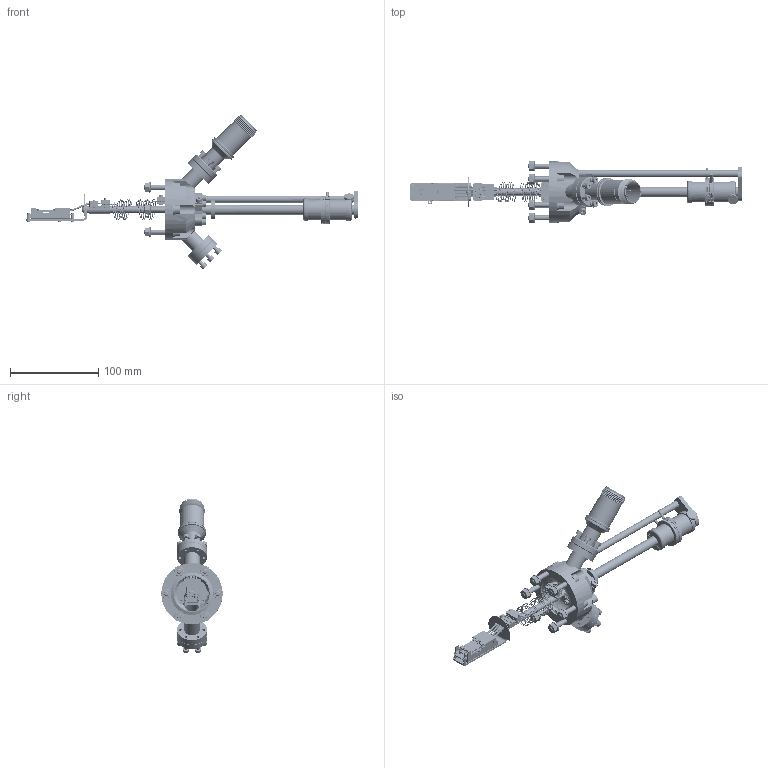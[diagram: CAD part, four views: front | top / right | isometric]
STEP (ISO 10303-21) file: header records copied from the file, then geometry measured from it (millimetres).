
FILE_DESCRIPTION(('Confidential','CAx-IF Rec.Pracs.--- Model Styling and Organization---1.2---2011-12-15','CAx-IF Rec.Pracs.--- Geometric and Assembly Validation Properties ---3.1---2011-10-19'),'2;1');
FILE_NAME('W:\KONSTRUKTION\PRODUCTS\HS\HSAS\HSASOM\HSASOM40\HSASOM40(PBNMD)\HSASOM40(PBNMD)_Rev_F.stp','2026-05-20T07:31:39+00:00',('none'),('Ferrovac AG'),'CATIA Version 5 Release 21 SP 6 (IN-10)','CATIA V5 STEP AP214 Edition 3','PROPERTY OF FERROVAC AG');
FILE_SCHEMA(('AUTOMOTIVE_DESIGN { 1 0 10303 214 3 1 1 1 }'));
Products named in the file (1): HSASOM40(PBNMD)
Bounding box: 376.8 x 70.7 x 175.65 mm (x, y, z)
Volume: 200387 mm3; surface area: 137395.4 mm2
Topology: 2 solids, 50 shells, 6773 faces, 18421 edges, 12084 vertices
Faces by surface type: cylinder 2400, plane 2389, cone 1089, torus 793, bspline 98, sphere 4
Entity records: 238571 total; most frequent: CARTESIAN_POINT 76752, ORIENTED_EDGE 36606, DIRECTION 24472, EDGE_CURVE 18303, VERTEX_POINT 12072, AXIS2_PLACEMENT_3D 11880, EDGE_LOOP 7563, VECTOR 7002
